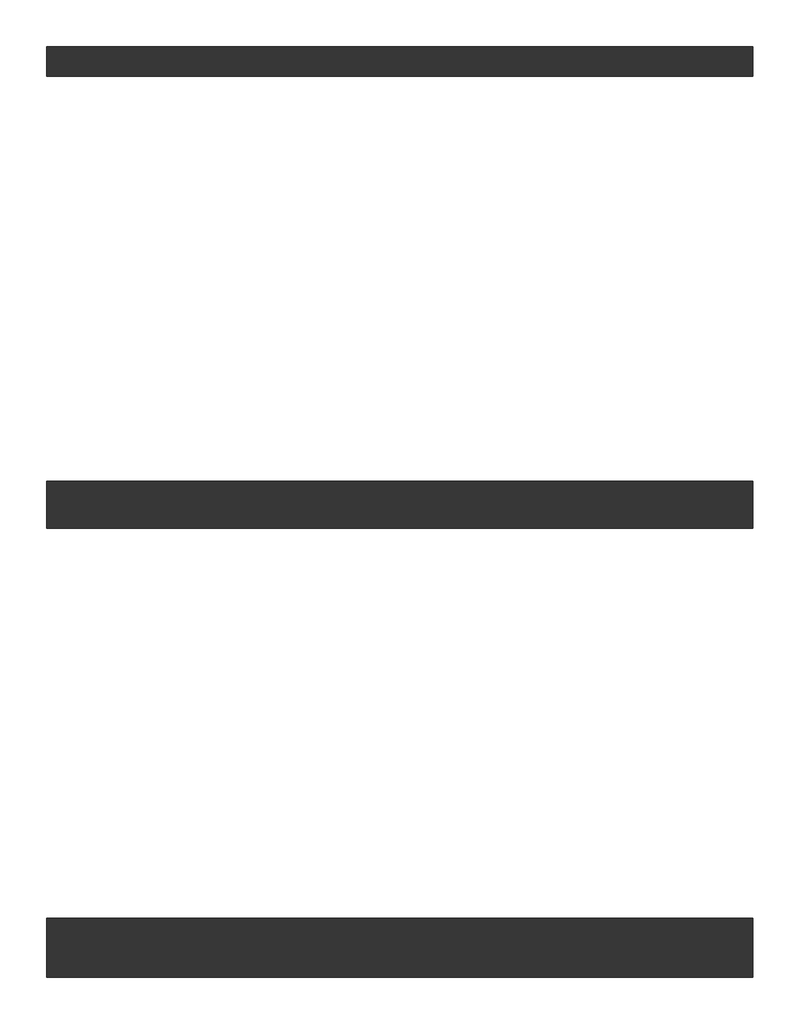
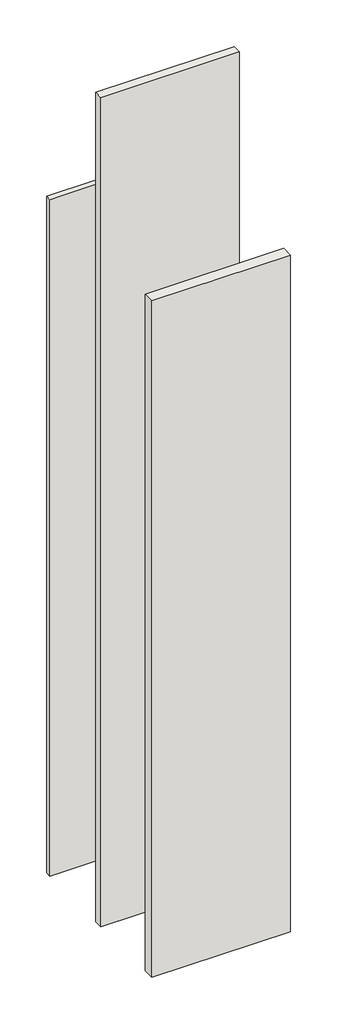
# One storey: 3 walls.
"""IFC4 building model written with IfcOpenShell, lengths in millimetres."""

import ifcopenshell
import ifcopenshell.guid

model = None  # the IFC model being written
_history = None  # IfcOwnerHistory: only IFC2X3 demands one
_inside = {}  # id of a spatial element -> (the spatial element, [elements in it])
_under = {}  # id of a project, library or spatial element -> (it, [spatial elements below it])
_declared = {}  # id of a project -> (the project, [libraries it declares])
_typed = {}  # id of a type object -> (the type object, [elements of that type])
_made_of = {}  # id of a material, layer set ... -> (it, [elements and type objects made of it])


def new_model(schema):
    """Start an empty IFC model of exactly this schema.

    Asked for "IFC4X3", IfcOpenShell would pick the latest addendum, in which some entities
    have other attributes; the version numbers below select the first issue.
    IFC2X3 requires an IfcOwnerHistory on every rooted entity: one is made here for all.
    """
    global model, _history
    if schema == "IFC4X3":
        model = ifcopenshell.file(schema_version=(4, 3, 0, 0))
    else:
        model = ifcopenshell.file(schema=schema)
    _inside.clear()
    _under.clear()
    _declared.clear()
    _typed.clear()
    _made_of.clear()
    _history = None
    if model.schema == "IFC2X3":
        org = make("IfcOrganization", Name="unknown")
        user = make(
            "IfcPersonAndOrganization",
            ThePerson=make("IfcPerson", FamilyName="unknown"),
            TheOrganization=org,
        )
        app = make(
            "IfcApplication",
            ApplicationDeveloper=org,
            Version="unknown",
            ApplicationFullName="unknown",
            ApplicationIdentifier="unknown",
        )
        _history = make(
            "IfcOwnerHistory",
            OwningUser=user,
            OwningApplication=app,
            ChangeAction="ADDED",
            CreationDate=0,
        )
    return model


def make(cls, **values):
    """One entity of the class cls with the attributes given. An attribute that is None is left unset."""
    return model.create_entity(
        cls, **{name: value for name, value in values.items() if value is not None}
    )


def rooted(cls, **values):
    """An entity with a GlobalId (a new one), such as an element, a storey or a relation."""
    return make(cls, GlobalId=ifcopenshell.guid.new(), OwnerHistory=_history, **values)


def si_unit(unit_type, name, prefix=None):
    """IfcSIUnit, for example si_unit("LENGTHUNIT", "METRE", prefix="MILLI")."""
    return make("IfcSIUnit", UnitType=unit_type, Prefix=prefix, Name=name)


def assignment(units):
    """IfcUnitAssignment: the units of a project."""
    return None if units is None else make("IfcUnitAssignment", Units=units)


def point(xyz):
    """IfcCartesianPoint."""
    return None if xyz is None else make("IfcCartesianPoint", Coordinates=xyz)


def direction(xyz):
    """IfcDirection."""
    return None if xyz is None else make("IfcDirection", DirectionRatios=xyz)


def frame(location, z_axis=None, x_axis=None):
    """IfcAxis2Placement3D, a coordinate frame: its origin and axes. An axis left out is left unset."""
    return make(
        "IfcAxis2Placement3D",
        Location=point(location),
        Axis=direction(z_axis),
        RefDirection=direction(x_axis),
    )


def origin():
    """The frame at (0, 0, 0) with its axes left unset."""
    return frame((0.0, 0.0, 0.0))


def origin_with_axes():
    """The frame at (0, 0, 0) with the z axis (0, 0, 1) and the x axis (1, 0, 0) written out."""
    return frame((0.0, 0.0, 0.0), z_axis=(0.0, 0.0, 1.0), x_axis=(1.0, 0.0, 0.0))


def place(relative_to, where):
    """IfcLocalPlacement: puts the frame where relative to a parent placement (None: the world)."""
    return make(
        "IfcLocalPlacement", PlacementRelTo=relative_to, RelativePlacement=where
    )


def context(
    kind, dimensions, precision=None, world=None, true_north=None, identifier=None
):
    """IfcGeometricRepresentationContext, for example the 3D "Model" context."""
    return make(
        "IfcGeometricRepresentationContext",
        ContextIdentifier=identifier,
        ContextType=kind,
        CoordinateSpaceDimension=dimensions,
        Precision=precision,
        WorldCoordinateSystem=world,
        TrueNorth=true_north,
    )


def project(units=None, contexts=None):
    """IfcProject with its units and contexts."""
    return rooted(
        "IfcProject",
        Name="project",
        RepresentationContexts=contexts,
        UnitsInContext=assignment(units),
    )


def spatial(cls, under=None, at=None, **own):
    """A site, building, storey or space (cls), placed at a placement, below another one or the project."""
    s = rooted(cls, ObjectPlacement=at, **own)
    if under is not None:
        _under.setdefault(under.id(), (under, []))[1].append(s)
    return s


def polyline(points):
    """IfcPolyline through the points."""
    return make("IfcPolyline", Points=[point(p) for p in points])


def outline(outer, holes=None, kind="AREA"):
    """IfcArbitraryClosedProfileDef: a profile drawn as a closed curve; with holes, ...WithVoids."""
    if holes is None:
        return make("IfcArbitraryClosedProfileDef", ProfileType=kind, OuterCurve=outer)
    return make(
        "IfcArbitraryProfileDefWithVoids",
        ProfileType=kind,
        OuterCurve=outer,
        InnerCurves=holes,
    )


def extrude(swept, where, along, depth):
    """IfcExtrudedAreaSolid: the profile swept, set in the frame where, extruded along a direction by depth."""
    return make(
        "IfcExtrudedAreaSolid",
        SweptArea=swept,
        Position=where,
        ExtrudedDirection=direction(along),
        Depth=depth,
    )


def shape(context_of_items, identifier, shape_type, items):
    """IfcShapeRepresentation: the items that make up one representation, for example the "Body"."""
    return make(
        "IfcShapeRepresentation",
        ContextOfItems=context_of_items,
        RepresentationIdentifier=identifier,
        RepresentationType=shape_type,
        Items=items,
    )


def made_of(thing, what):
    """Note that an element or type object is made of a material, layer set ...; save() writes the relation."""
    if what is not None:
        _made_of.setdefault(what.id(), (what, []))[1].append(thing)
    return thing


def element(
    cls,
    number,
    at=None,
    inside=None,
    cuts=None,
    type_object=None,
    material=None,
    context=None,
    identifier="Body",
    shape_type=None,
    held_by="IfcProductDefinitionShape",
    body=None,
    shapes=None,
    **own,
):
    """One element of the class cls, such as IfcWall. Its Tag is "e" and its number.

    at: its placement. inside: the storey or other place that contains it. cuts: it is an
    opening in that element (IfcRelVoidsElement). A single representation is given by context,
    identifier, shape_type and body (its items); several are given by shapes. held_by: the class
    of the entity that holds the representations. save() writes the other relations.
    """
    e = rooted(cls, Tag="e%d" % number, ObjectPlacement=at, **own)
    if body is not None:
        shapes = [shape(context, identifier, shape_type, body)]
    if shapes is not None:
        e.Representation = make(held_by, Representations=shapes)
    if inside is not None:
        _inside.setdefault(inside.id(), (inside, []))[1].append(e)
    if cuts is not None:
        rooted(
            "IfcRelVoidsElement", RelatingBuildingElement=cuts, RelatedOpeningElement=e
        )
    if type_object is not None:
        _typed.setdefault(type_object.id(), (type_object, []))[1].append(e)
    return made_of(e, material)


def aggregate(whole, parts):
    """IfcRelAggregates: a whole, such as a stair, and the parts it consists of."""
    return rooted("IfcRelAggregates", RelatingObject=whole, RelatedObjects=parts)


def save(model, path):
    """Write the relations noted so far, then the file.

    IfcRelAggregates (storeys below a building ...), IfcRelContainedInSpatialStructure (elements
    in a storey), IfcRelDefinesByType, IfcRelAssociatesMaterial and IfcRelDeclares: one each for
    every whole, place, type object, material and project.
    """
    for whole, parts in _under.values():
        aggregate(whole, parts)
    for where, things in _inside.values():
        rooted(
            "IfcRelContainedInSpatialStructure",
            RelatedElements=things,
            RelatingStructure=where,
        )
    for kind, things in _typed.values():
        rooted("IfcRelDefinesByType", RelatedObjects=things, RelatingType=kind)
    for what, things in _made_of.values():
        rooted("IfcRelAssociatesMaterial", RelatedObjects=things, RelatingMaterial=what)
    for by, libraries in _declared.values():
        rooted("IfcRelDeclares", RelatingContext=by, RelatedDefinitions=libraries)
    model.write(path)


model = new_model("IFC4")

# Units and contexts
model_context = context("Model", 3, world=origin())
ifc_project = project(units=[si_unit("LENGTHUNIT", "METRE", prefix="MILLI")], contexts=[model_context])

# Site, building, storey
site = spatial("IfcSite", under=ifc_project)
building = spatial("IfcBuilding", under=site)
storey = spatial("IfcBuildingStorey", under=building, Name="Референтни ниво", Elevation=0.0)

# Walls
placement = place(None, origin())
element("IfcWall", 1, ObjectType="Knauf Insulation - NatuRoll Pro - 50 mm -50 x 6200 x 1200 mm", at=placement, inside=storey, context=model_context, shape_type="SweptSolid", body=[
    extrude(outline(polyline([(-220358.9835651, 183192.205474), (-221558.9835651, 183192.205474), (-221558.9835651, 183242.205474), (-220358.9835651, 183242.205474), (-220358.9835651, 183192.205474)])), origin_with_axes(), (0.0, 0.0, 1.0), 6200.0),
])
element("IfcWall", 2, ObjectType="Knauf Insulation - NatuRoll Pro - 80 mm - 80 x 7600 x 1200 mm", at=placement, inside=storey, context=model_context, shape_type="SweptSolid", body=[
    extrude(outline(polyline([(-220358.9835651, 182424.705474), (-221558.9835651, 182424.705474), (-221558.9835651, 182504.705474), (-220358.9835651, 182504.705474), (-220358.9835651, 182424.705474)])), origin_with_axes(), (0.0, 0.0, 1.0), 7600.0),
])
element("IfcWall", 3, ObjectType="Knauf Insulation - NatuRoll Pro - 100 mm - 100 x 6200 x 1200 mm", at=placement, inside=storey, context=model_context, shape_type="SweptSolid", body=[
    extrude(outline(polyline([(-220358.9835651, 181662.205474), (-221558.9835651, 181662.205474), (-221558.9835651, 181762.205474), (-220358.9835651, 181762.205474), (-220358.9835651, 181662.205474)])), origin_with_axes(), (0.0, 0.0, 1.0), 6200.0),
])

save(model, "model.ifc")
